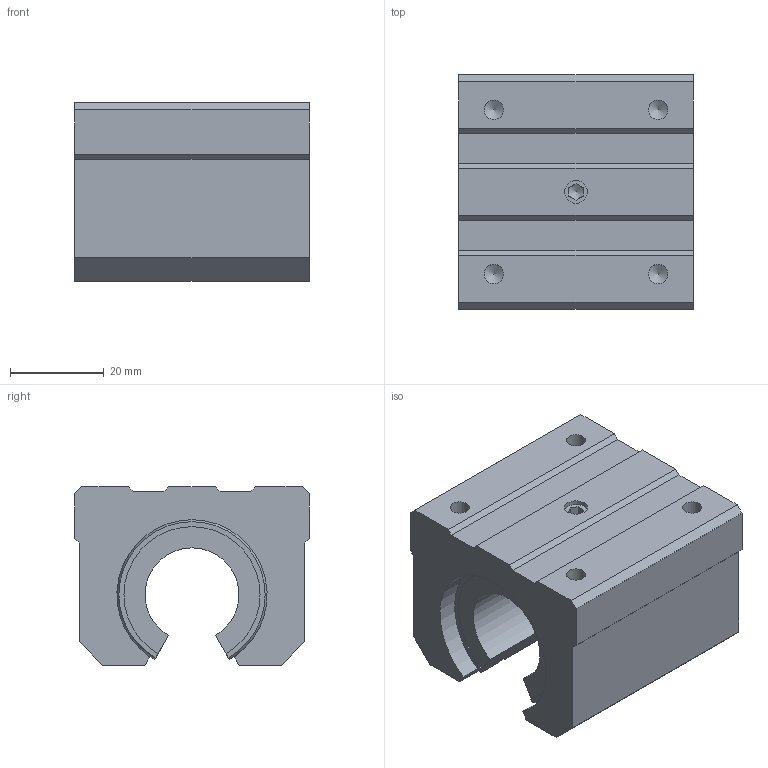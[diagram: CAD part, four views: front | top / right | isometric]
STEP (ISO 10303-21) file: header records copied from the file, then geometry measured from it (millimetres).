
FILE_DESCRIPTION((''),'2;1');
FILE_NAME('D:\製品 (図面)\カタログ用3D\GHA20H.stp','2010-06-07T16:10:23',('Tsuchiya'),(''),'Autodesk Inventor 10','Autodesk Inventor 10','');
FILE_SCHEMA(('AUTOMOTIVE_DESIGN { 1 0 10303 214 1 1 1 1 }'));
Length unit declared in the file: millimetre
Products named in the file (1): GHA20H
Bounding box: 50 x 50 x 38 mm (x, y, z)
Volume: 66175.9 mm3; surface area: 15606.4 mm2
Topology: 1 solids, 1 shells, 69 faces, 197 edges, 127 vertices
Faces by surface type: plane 41, cylinder 15, bspline 10, torus 2, cone 1
Entity records: 2244 total; most frequent: CARTESIAN_POINT 534, ORIENTED_EDGE 356, DIRECTION 338, EDGE_CURVE 178, VECTOR 126, LINE 126, VERTEX_POINT 118, AXIS2_PLACEMENT_3D 106
